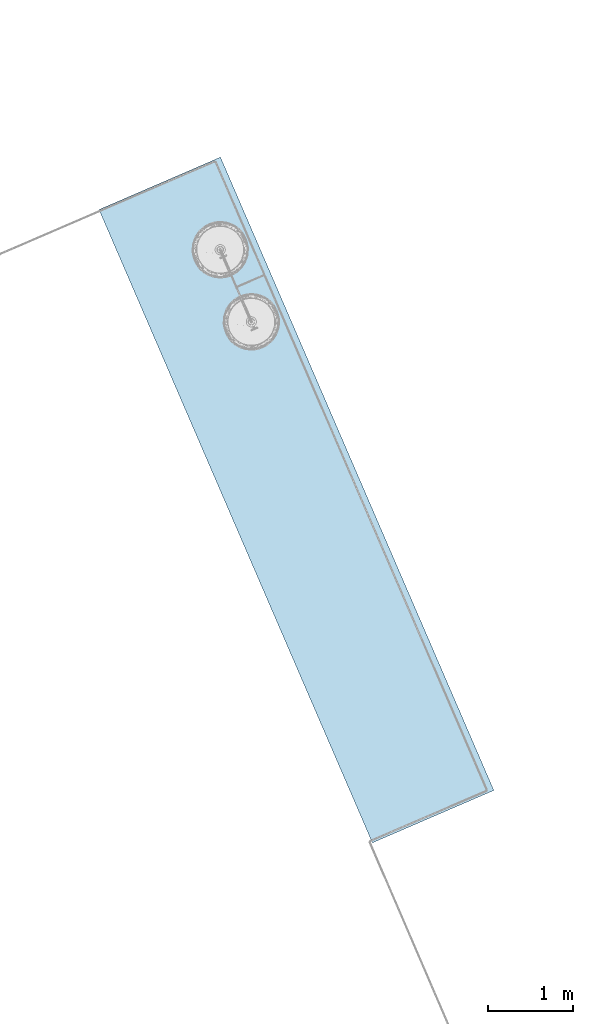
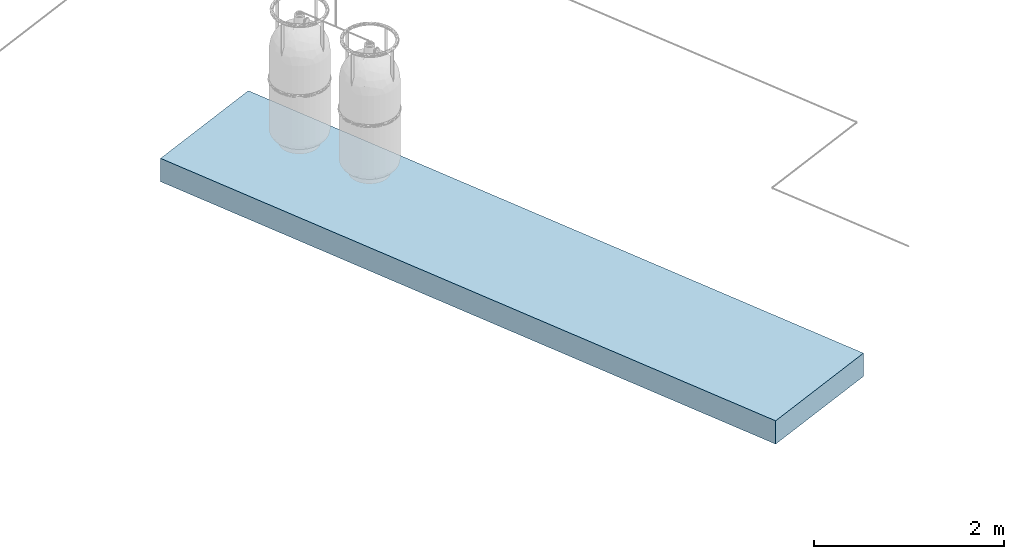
# One storey, part 1 of 26: 1 slab.
"""IFC4 building model written with IfcOpenShell, lengths in metres."""

from ifc_helpers import new_model, entity, si_unit, converted_unit, derived_unit, direction, frame, origin, place, context, subcontext, project, spatial, indexed_curve, outline, extrude, material, type_object, element, save


model = new_model("IFC4")

# Units and contexts
model_context = context("Model", 3, precision=1e-05, world=origin(), true_north=direction((6.12323399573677e-17, 1.0)))
body_context = subcontext(model_context, "Body", "Model", "MODEL_VIEW")
ifc_project = project(units=[si_unit("LENGTHUNIT", "METRE"), si_unit("AREAUNIT", "SQUARE_METRE"), si_unit("VOLUMEUNIT", "CUBIC_METRE"), si_unit("PRESSUREUNIT", "PASCAL"), derived_unit("VOLUMETRICFLOWRATEUNIT", [(si_unit("LENGTHUNIT", "METRE", prefix="DECI"), 3), (si_unit("TIMEUNIT", "SECOND"), -1)]), converted_unit("PLANEANGLEUNIT", "DEGREE", entity("IfcPlaneAngleMeasure", 0.0174532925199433), si_unit("PLANEANGLEUNIT", "RADIAN"), dimensions=[0, 0, 0, 0, 0, 0, 0])], contexts=[model_context])

# Site, building, storey
site_placement = place(None, origin())
site = spatial("IfcSite", under=ifc_project, at=site_placement, Name="Default", CompositionType="ELEMENT")
building_placement = place(site_placement, frame((24.575451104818, -55.896759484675, 317.15), z_axis=(0.0, 0.0, 1.0), x_axis=(-0.396377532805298, 0.918087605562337, 0.0)))
building = spatial("IfcBuilding", under=site, at=building_placement, CompositionType="ELEMENT")
storey_placement = place(building_placement, origin())
storey = spatial("IfcBuildingStorey", under=building, at=storey_placement, Name="Nivel 1", CompositionType="ELEMENT", Elevation=0.0)

# Slab
ifc_material = material(Name="Suelo por defecto", Category="Varios")
slab_type = type_object("IfcSlabType", Name="Floor:Genérico 300 mm", PredefinedType="FLOOR", material=ifc_material)
slab_placement = place(storey_placement, origin())
element("IfcSlab", 1, at=slab_placement, inside=storey, type_object=slab_type, material=ifc_material, Name="Floor:Genérico 300 mm", ObjectType="Floor:Genérico 300 mm", PredefinedType="FLOOR", context=body_context, shape_type="SweptSolid", body=[
    extrude(outline(indexed_curve([(-0.774999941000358, -4.04004708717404), (0.774999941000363, -4.04004708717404), (0.774999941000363, 4.04004708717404), (-0.774999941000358, 4.04004708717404), (-0.774999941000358, -4.04004708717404)], self_intersect=False)), frame((19.5000470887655, 38.4000000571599, 0.0), z_axis=(0.0, 0.0, -1.0), x_axis=(0.0, 1.0, 0.0)), (0.0, 0.0, 1.0), 0.3),
])

save(model, "model.ifc")
